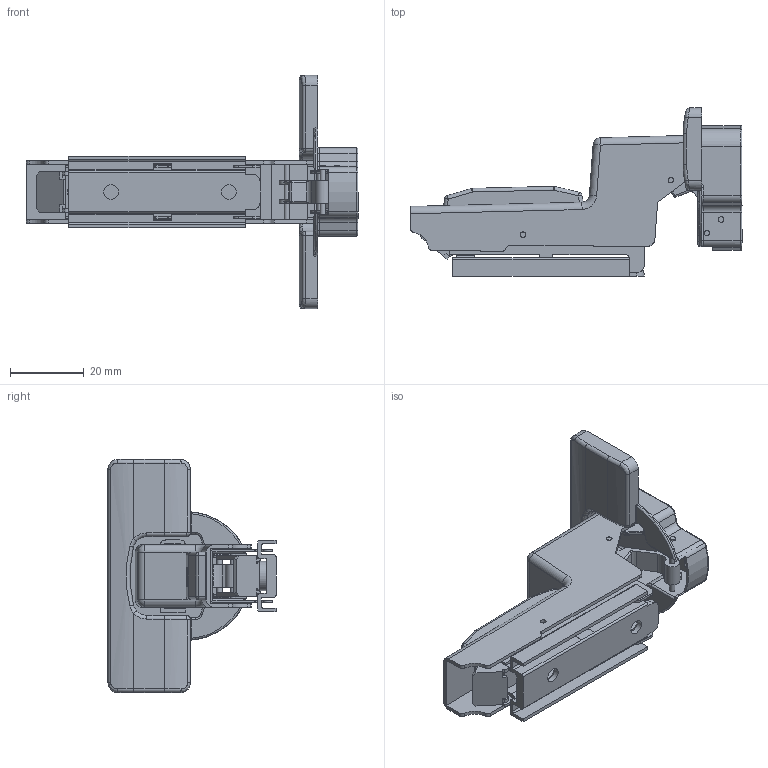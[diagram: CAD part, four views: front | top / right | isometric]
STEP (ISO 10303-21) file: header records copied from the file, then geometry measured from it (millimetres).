
FILE_DESCRIPTION(/* description */ (''),/* implementation_level */ '2;1');
FILE_NAME(/* name */ 'D:\$Workingspace\Designs\Katalog\Cadsoft\GTV Zawiasy\ZM-DCHCB(07)(08)(09)-3DBEO_PRO\ZM-DCHCB07-3DBEO.stp',/* time_stamp */ '2021-09-16T10:48:08+02:00',/* author */ ('tomaszw'),/* organization */ (''),/* preprocessor_version */ 'ST-DEVELOPER v18.1',/* originating_system */ 'Autodesk Inventor 2021',/* authorisation */ '');
FILE_SCHEMA (('AUTOMOTIVE_DESIGN { 1 0 10303 214 3 1 1 }'));
Length unit declared in the file: millimetre
Products named in the file (14): ZM-DCHC07BEO; ZM-DCHCB_Prow; ZM-DCHC07; ZM-DCHC0_2; ZM-DCHC0_1; ZM-DCHC0_4-FI35_45_w; ZM-DCHC0_3; ZM-DCHC0_Pin1; ZM-DCHC0_5; REG_1; REG_2; ZM-DCHC0_Pin2; ZM-ECHC0-NR9; ZM-DCHCB_ZP
Assembly tree (15 placements, depth 2):
  ZM-DCHC07BEO
    ZM-DCHCB_Prow
    ZM-DCHC07
    ZM-DCHC0_2
    ZM-DCHC0_1
    ZM-DCHC0_4-FI35_45_w
    ZM-DCHC0_3
    ZM-DCHC0_Pin1  x2
    ZM-DCHC0_5
    REG_1
    REG_2
    ZM-DCHC0_Pin2  x2
    ZM-ECHC0-NR9
    ZM-DCHCB_ZP
Bounding box: 90.25 x 45.7 x 63.4 mm (x, y, z)
Volume: 13260.6 mm3; surface area: 30366.7 mm2
Topology: 16 solids, 17 shells, 822 faces, 2106 edges, 1325 vertices
Faces by surface type: plane 375, cylinder 302, torus 67, bspline 59, sphere 14, cone 5
Full cylindrical faces by diameter (mm): 1.5 x21, 4 x2, 6.5 x1, 7 x2, 7.4 x1, 8 x2, 8.5 x1
Entity records: 27345 total; most frequent: CARTESIAN_POINT 6048, DIRECTION 4233, ORIENTED_EDGE 4192, EDGE_CURVE 2096, AXIS2_PLACEMENT_3D 1480, VERTEX_POINT 1321, LINE 1273, VECTOR 1273
